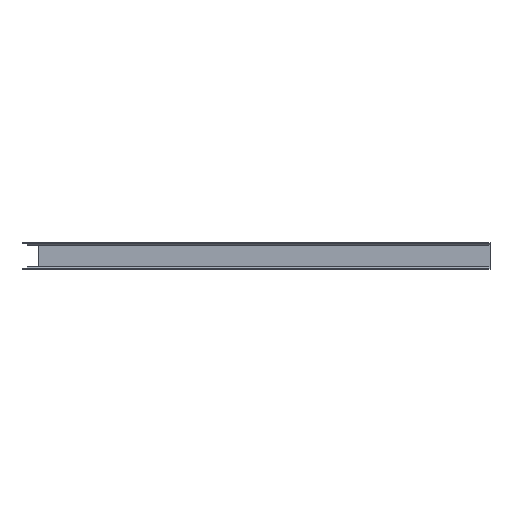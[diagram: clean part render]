
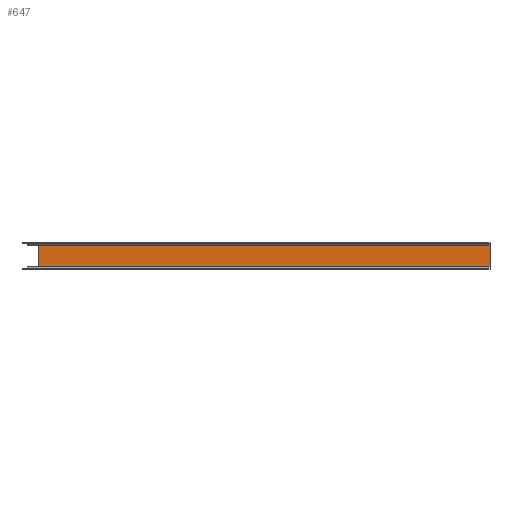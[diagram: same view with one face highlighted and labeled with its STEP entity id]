
A CAD part, front view. The second image highlights one B-rep face of the part: STEP entity #647.
In plain terms, the highlighted planar face has unit normal (0, -1, 0).
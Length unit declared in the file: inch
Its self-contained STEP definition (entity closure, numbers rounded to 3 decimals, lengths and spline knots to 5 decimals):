
#6 = EDGE_CURVE ( 'NONE', #1408, #1420, #1425, .T. ) ;
#7 = EDGE_CURVE ( 'NONE', #1457, #1420, #1421, .T. ) ;
#11 = EDGE_CURVE ( 'NONE', #1408, #1433, #1398, .T. ) ;
#173 = DIRECTION ( 'NONE',  ( 0., -1., 0. ) ) ;
#274 = CARTESIAN_POINT ( 'NONE',  ( 0., -0.036, 0. ) ) ;
#290 = PLANE ( 'NONE',  #1177 ) ;
#373 = DIRECTION ( 'NONE',  ( 0., 0., -1. ) ) ;
#647 = ADVANCED_FACE ( 'NONE', ( #1527 ), #290, .T. ) ;
#1005 = ORIENTED_EDGE ( 'NONE', *, *, #2346, .F. ) ;
#1031 = ORIENTED_EDGE ( 'NONE', *, *, #11, .F. ) ;
#1032 = ORIENTED_EDGE ( 'NONE', *, *, #6, .T. ) ;
#1043 = ORIENTED_EDGE ( 'NONE', *, *, #7, .F. ) ;
#1072 = DIRECTION ( 'NONE',  ( 1., 0., 0. ) ) ;
#1076 = CARTESIAN_POINT ( 'NONE',  ( 0., -0.036, -0.029 ) ) ;
#1177 = AXIS2_PLACEMENT_3D ( 'NONE', #274, #173, #373 ) ;
#1329 = VECTOR ( 'NONE', #2289, 39.37008 ) ;
#1357 = LINE ( 'NONE', #2280, #1329 ) ;
#1398 = LINE ( 'NONE', #1076, #1404 ) ;
#1404 = VECTOR ( 'NONE', #1072, 39.37008 ) ;
#1408 = VERTEX_POINT ( 'NONE', #2235 ) ;
#1413 = EDGE_LOOP ( 'NONE', ( #1031, #1032, #1043, #1005 ) ) ;
#1418 = VECTOR ( 'NONE', #2030, 39.37008 ) ;
#1420 = VERTEX_POINT ( 'NONE', #2236 ) ;
#1421 = LINE ( 'NONE', #1932, #1427 ) ;
#1425 = LINE ( 'NONE', #2028, #1418 ) ;
#1427 = VECTOR ( 'NONE', #2031, 39.37008 ) ;
#1433 = VERTEX_POINT ( 'NONE', #2210 ) ;
#1457 = VERTEX_POINT ( 'NONE', #2204 ) ;
#1527 = FACE_OUTER_BOUND ( 'NONE', #1413, .T. ) ;
#1932 = CARTESIAN_POINT ( 'NONE',  ( 28., -0.036, -1.461 ) ) ;
#2028 = CARTESIAN_POINT ( 'NONE',  ( 1., -0.036, 0. ) ) ;
#2030 = DIRECTION ( 'NONE',  ( 0., 0., -1. ) ) ;
#2031 = DIRECTION ( 'NONE',  ( -1., 0., 0. ) ) ;
#2204 = CARTESIAN_POINT ( 'NONE',  ( 28., -0.036, -1.461 ) ) ;
#2210 = CARTESIAN_POINT ( 'NONE',  ( 28., -0.036, -0.029 ) ) ;
#2235 = CARTESIAN_POINT ( 'NONE',  ( 1., -0.036, -0.029 ) ) ;
#2236 = CARTESIAN_POINT ( 'NONE',  ( 1., -0.036, -1.461 ) ) ;
#2280 = CARTESIAN_POINT ( 'NONE',  ( 28., -0.036, 0. ) ) ;
#2289 = DIRECTION ( 'NONE',  ( 0., 0., -1. ) ) ;
#2346 = EDGE_CURVE ( 'NONE', #1433, #1457, #1357, .T. ) ;
